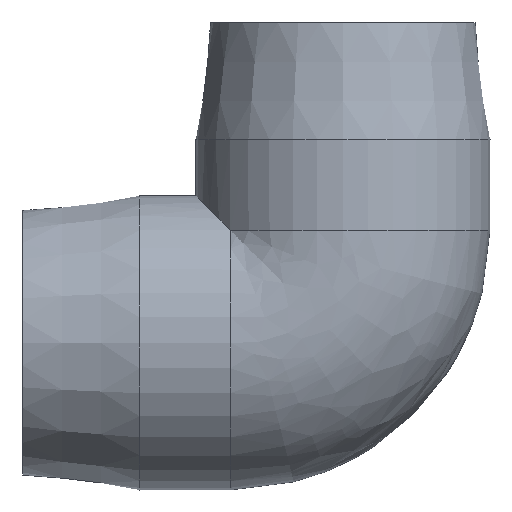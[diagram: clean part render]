
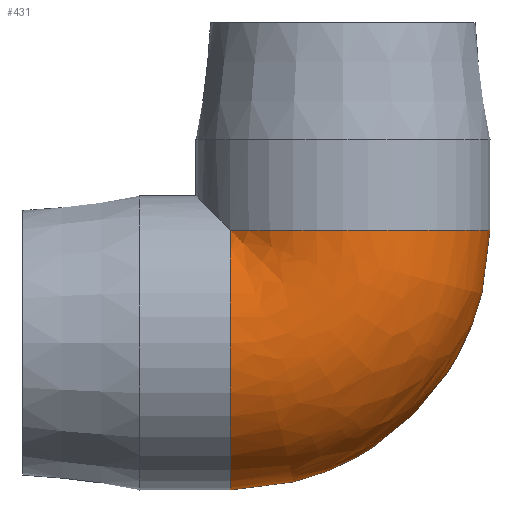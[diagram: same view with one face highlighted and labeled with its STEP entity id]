
A CAD part, front view. The second image highlights one B-rep face of the part: STEP entity #431.
In plain terms, the highlighted free-form (B-spline) face has degree [2, 2] with [9, 3] control points.
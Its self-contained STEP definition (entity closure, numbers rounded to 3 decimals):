
#33=(
BOUNDED_SURFACE()
B_SPLINE_SURFACE(2,2,((#724,#725,#726),(#727,#728,#729),(#730,#731,#732),
(#733,#734,#735),(#736,#737,#738),(#739,#740,#741),(#742,#743,#744),(#745,
#746,#747),(#748,#749,#750)),.UNSPECIFIED.,.F.,.F.,.F.)
B_SPLINE_SURFACE_WITH_KNOTS((3,2,2,2,3),(3,3),(-2.441,-1.221,
0.,1.221,2.441),(0.,1.571),
 .UNSPECIFIED.)
GEOMETRIC_REPRESENTATION_ITEM()
RATIONAL_B_SPLINE_SURFACE(((1.,0.707,1.),(0.819,
0.579,0.819),(1.,0.707,1.),(0.819,
0.579,0.819),(1.,0.707,1.),(0.819,
0.579,0.819),(1.,0.707,1.),(0.819,
0.579,0.819),(1.,0.707,1.)))
REPRESENTATION_ITEM('')
SURFACE()
);
#92=FACE_OUTER_BOUND('',#126,.T.);
#126=EDGE_LOOP('',(#307,#308,#309,#310));
#168=CIRCLE('',#494,34.);
#169=CIRCLE('',#495,34.);
#170=CIRCLE('',#496,34.);
#171=CIRCLE('',#497,34.);
#203=VERTEX_POINT('',#751);
#204=VERTEX_POINT('',#752);
#205=VERTEX_POINT('',#754);
#206=VERTEX_POINT('',#756);
#243=EDGE_CURVE('',#203,#204,#168,.T.);
#244=EDGE_CURVE('',#204,#205,#169,.T.);
#245=EDGE_CURVE('',#205,#206,#170,.T.);
#246=EDGE_CURVE('',#206,#203,#171,.T.);
#307=ORIENTED_EDGE('',*,*,#243,.T.);
#308=ORIENTED_EDGE('',*,*,#244,.T.);
#309=ORIENTED_EDGE('',*,*,#245,.T.);
#310=ORIENTED_EDGE('',*,*,#246,.T.);
#431=ADVANCED_FACE('',(#92),#33,.F.);
#494=AXIS2_PLACEMENT_3D('',#753,#579,#580);
#495=AXIS2_PLACEMENT_3D('',#755,#581,#582);
#496=AXIS2_PLACEMENT_3D('',#757,#583,#584);
#497=AXIS2_PLACEMENT_3D('',#758,#585,#586);
#579=DIRECTION('center_axis',(0.,0.,
-1.));
#580=DIRECTION('ref_axis',(-1.,0.,0.));
#581=DIRECTION('center_axis',(0.,0.,
-1.));
#582=DIRECTION('ref_axis',(-1.,0.,0.));
#583=DIRECTION('center_axis',(1.,0.,0.));
#584=DIRECTION('ref_axis',(0.,0.,-1.));
#585=DIRECTION('center_axis',(1.,0.,0.));
#586=DIRECTION('ref_axis',(0.,0.,-1.));
#724=CARTESIAN_POINT('Ctrl Pts',(-26.,21.909,26.));
#725=CARTESIAN_POINT('Ctrl Pts',(-26.,21.909,26.));
#726=CARTESIAN_POINT('Ctrl Pts',(-26.,21.909,26.));
#727=CARTESIAN_POINT('Ctrl Pts',(-26.,40.094,10.676));
#728=CARTESIAN_POINT('Ctrl Pts',(-10.676,40.094,10.676));
#729=CARTESIAN_POINT('Ctrl Pts',(-10.676,40.094,26.));
#730=CARTESIAN_POINT('Ctrl Pts',(-26.,31.937,-11.662));
#731=CARTESIAN_POINT('Ctrl Pts',(11.662,31.937,-11.662));
#732=CARTESIAN_POINT('Ctrl Pts',(11.662,31.937,26.));
#733=CARTESIAN_POINT('Ctrl Pts',(-26.,23.781,-34.));
#734=CARTESIAN_POINT('Ctrl Pts',(34.,23.781,-34.));
#735=CARTESIAN_POINT('Ctrl Pts',(34.,23.781,26.));
#736=CARTESIAN_POINT('Ctrl Pts',(-26.,0.,-34.));
#737=CARTESIAN_POINT('Ctrl Pts',(34.,0.,-34.));
#738=CARTESIAN_POINT('Ctrl Pts',(34.,0.,26.));
#739=CARTESIAN_POINT('Ctrl Pts',(-26.,-23.781,-34.));
#740=CARTESIAN_POINT('Ctrl Pts',(34.,-23.781,-34.));
#741=CARTESIAN_POINT('Ctrl Pts',(34.,-23.781,26.));
#742=CARTESIAN_POINT('Ctrl Pts',(-26.,-31.937,-11.662));
#743=CARTESIAN_POINT('Ctrl Pts',(11.662,-31.937,-11.662));
#744=CARTESIAN_POINT('Ctrl Pts',(11.662,-31.937,26.));
#745=CARTESIAN_POINT('Ctrl Pts',(-26.,-40.094,10.676));
#746=CARTESIAN_POINT('Ctrl Pts',(-10.676,-40.094,10.676));
#747=CARTESIAN_POINT('Ctrl Pts',(-10.676,-40.094,26.));
#748=CARTESIAN_POINT('Ctrl Pts',(-26.,-21.909,26.));
#749=CARTESIAN_POINT('Ctrl Pts',(-26.,-21.909,26.));
#750=CARTESIAN_POINT('Ctrl Pts',(-26.,-21.909,26.));
#751=CARTESIAN_POINT('',(-26.,21.909,26.));
#752=CARTESIAN_POINT('',(0.,-34.,26.));
#753=CARTESIAN_POINT('Origin',(0.,0.,
26.));
#754=CARTESIAN_POINT('',(-26.,-21.909,26.));
#755=CARTESIAN_POINT('Origin',(0.,0.,
26.));
#756=CARTESIAN_POINT('',(-26.,-34.,0.));
#757=CARTESIAN_POINT('Origin',(-26.,0.,0.));
#758=CARTESIAN_POINT('Origin',(-26.,0.,0.));
